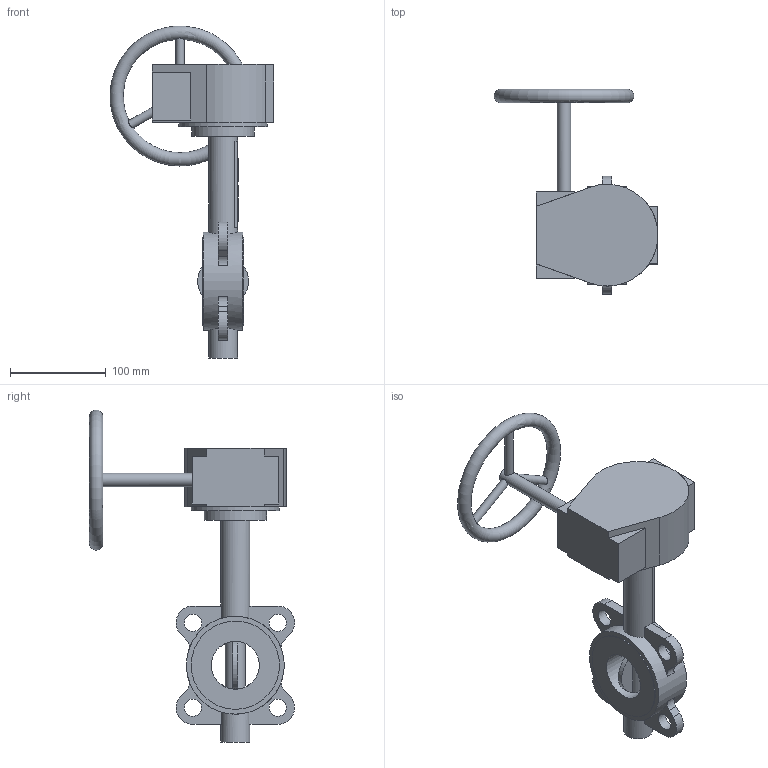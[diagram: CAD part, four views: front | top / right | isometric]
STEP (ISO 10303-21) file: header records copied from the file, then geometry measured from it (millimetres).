
FILE_DESCRIPTION(('STEP AP203'), '1');
FILE_NAME('青蜮铕 017WDN50 疱潴牝铕', '', ('UNSPECIFIED'), ('UNSPECIFIED'), 'ASCON STEP Converter 1.6', 'ASCON Math Kernel', '');
FILE_SCHEMA(('CONFIG_CONTROL_DESIGN'));
Length unit declared in the file: millimetre
Bounding box: 170.89 x 213.67 x 345.96 mm (x, y, z)
Volume: 807275.3 mm3; surface area: 151549.3 mm2
Topology: 1 solids, 2 shells, 633 faces, 1841 edges, 1182 vertices
Faces by surface type: cylinder 438, plane 194, torus 1
Full cylindrical faces by diameter (mm): 6.7 x4, 8 x4, 9 x3, 12.6 x1, 14 x1, 18 x4, 21 x1, 30 x2, 35 x1, 50 x1, 65 x1, 92 x3, 102 x1
Entity records: 27738 total; most frequent: CARTESIAN_POINT 5141, DIRECTION 3990, ORIENTED_EDGE 3561, EDGE_CURVE 1812, AXIS2_PLACEMENT_3D 1566, VERTEX_POINT 1181, CIRCLE 932, LINE 858
